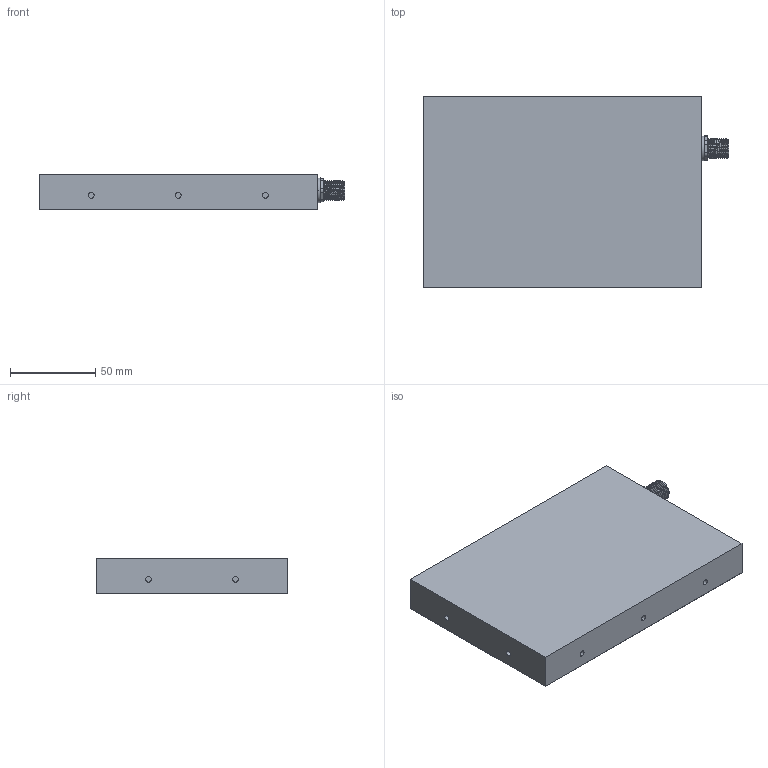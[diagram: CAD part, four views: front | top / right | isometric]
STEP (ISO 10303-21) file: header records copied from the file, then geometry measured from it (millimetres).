
FILE_DESCRIPTION (( 'STEP AP214' ), '1' );
FILE_NAME ('CSBACKII-xxxx-xxx_CLIENT1510.STEP', '2022-04-01T09:18:36', ( '' ), ( '' ), 'SwSTEP 2.0', 'SolidWorks 2020', '' );
FILE_SCHEMA (( 'AUTOMOTIVE_DESIGN' ));
Length unit declared in the file: millimetre
Products named in the file (1): CSBACKII-xxxx-xxx_CLIENT1510
Bounding box: 179 x 112 x 21.06 mm (x, y, z)
Volume: 385374.1 mm3; surface area: 49816.3 mm2
Topology: 1 solids, 2 shells, 322 faces, 807 edges, 530 vertices
Faces by surface type: plane 170, bspline 83, cylinder 61, torus 8
Entity records: 15154 total; most frequent: CARTESIAN_POINT 7989, ORIENTED_EDGE 1614, DIRECTION 1203, EDGE_CURVE 807, VERTEX_POINT 530, VECTOR 475, LINE 475, AXIS2_PLACEMENT_3D 364
